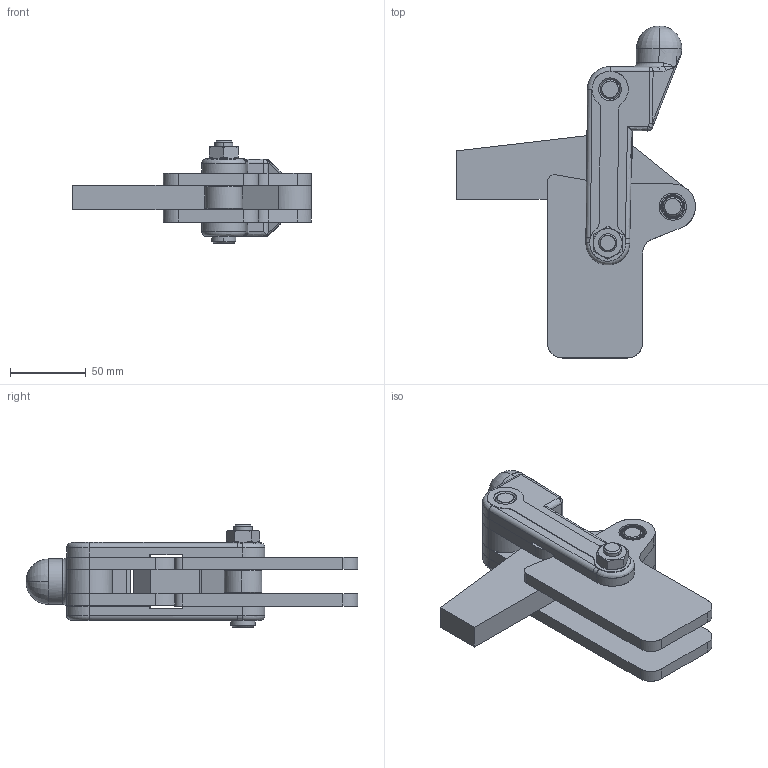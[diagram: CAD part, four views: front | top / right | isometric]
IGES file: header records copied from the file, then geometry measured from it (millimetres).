
Start section: Comment
Global section: file name: 72420.igs; native system:  By Spatial Corp.; preprocessor: XPlus PS/IGES 3.0; author: Author; organization: Title; date: 20050217.132710; units: inch
Bounding box: 158.03 x 219.5 x 67.5 mm (x, y, z)
Surface area: 119197.2 mm2 (no closed solid volume)
Topology: 0 solids, 0 shells, 419 faces, 1949 edges, 1937 vertices
Faces by surface type: revolution 293, extrusion 109, bspline 17
